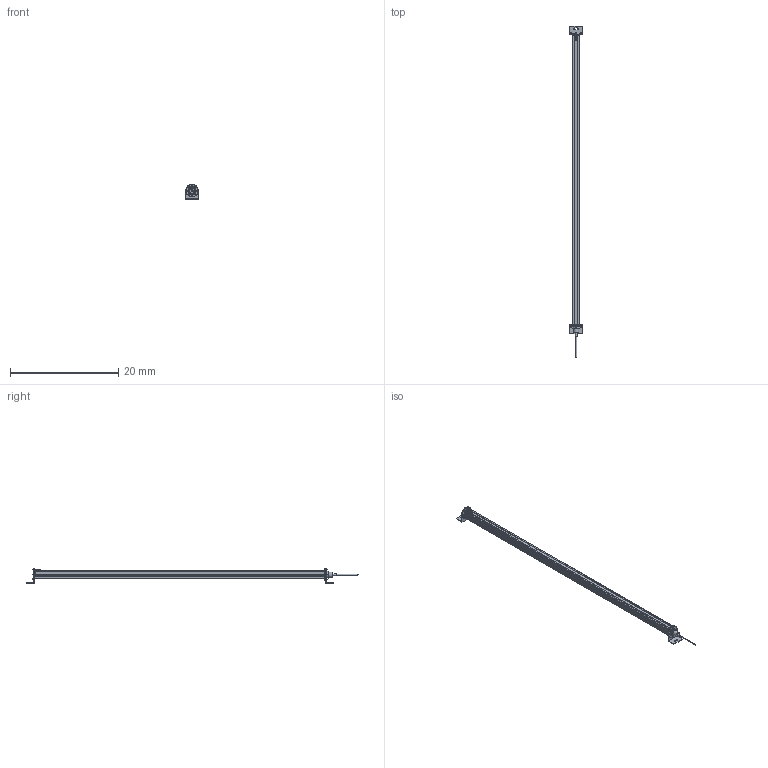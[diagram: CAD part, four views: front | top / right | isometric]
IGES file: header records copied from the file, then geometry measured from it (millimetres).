
Start section:  Autodesk DirectConnect version 7.0.27.0 ---- IGES version 5.3
Global section: file name: C:\ACADFILES\MG_PYLONS\CUSTOMER_FILES\MG-52-PYLON_3D_SMB.iges; native system: Autodesk DirectConnect 7.0.27.0; preprocessor: 7.0.27.0; author: ENGINEERMAIN; organization: Unknown; date: 20150810.142746; units: millimetre
Bounding box: 2.26 x 61.44 x 2.75 mm (x, y, z)
Surface area: 848.1 mm2 (no closed solid volume)
Topology: 0 solids, 0 shells, 771 faces, 3970 edges, 3969 vertices
Faces by surface type: bspline 771
